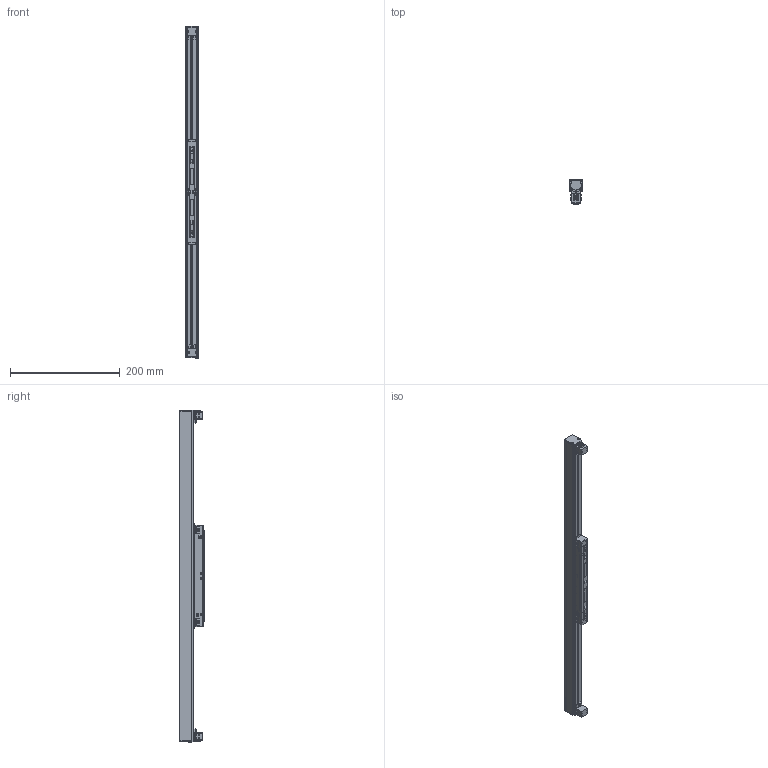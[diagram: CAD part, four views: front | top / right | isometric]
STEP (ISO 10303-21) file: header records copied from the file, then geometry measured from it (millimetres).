
FILE_DESCRIPTION (( 'STEP AP203' ), '1' );
FILE_NAME ('410099.STEP', '2025-04-02T02:25:49', ( '微软用户' ), ( '微软中国' ), 'SwSTEP 2.0', 'SolidWorks 2020', '' );
FILE_SCHEMA (( 'CONFIG_CONTROL_DESIGN' ));
Length unit declared in the file: millimetre
Products named in the file (21): PET毀嫖祧-600; MANIFOLD_SOLID_BREP_1155; 滓嫖黑芛ㄗ湍怢論ㄘ; MANIFOLD_SOLID_BREP_1145; MANIFOLD_SOLID_BREP_1156; 滓嫖醱欶-600; MANIFOLD_SOLID_BREP_1146; 10-07-WJ1; 臏價啣-410055; MANIFOLD_SOLID_BREP_1147; 10-08-G1_1; ｳﾁﾍｷﾊｮﾗﾖﾗﾔｹ･ﾂﾝﾋｿ M2.5X8; MANIFOLD_SOLID_BREP_1148; 10-10-gk-2; 安全扣：GN-CX01-10; MANIFOLD_SOLID_BREP_1149; 410099; 滓嫖腑极-600ㄗ湍怢論ㄘ; 埴芛坋趼蹟佪M3X6; MANIFOLD_SOLID_BREP_1150; 黑芛掖蝶ㄗ湍怢論ㄘ
Assembly tree (28 placements, depth 3):
  410099
    滓嫖腑极-600ㄗ湍怢論ㄘ
    黑芛掖蝶ㄗ湍怢論ㄘ  x2
    滓嫖黑芛ㄗ湍怢論ㄘ  x2
    滓嫖醱欶-600
    臏價啣-410055
    ｳﾁﾍｷﾊｮﾗﾖﾗﾔｹ･ﾂﾝﾋｿ M2.5X8  x4
    安全扣：GN-CX01-10  x2
    埴芛坋趼蹟佪M3X6  x2
    PET毀嫖祧-600  x2
    10-10-gk-2
      MANIFOLD_SOLID_BREP_1145
      MANIFOLD_SOLID_BREP_1146
      MANIFOLD_SOLID_BREP_1147
      MANIFOLD_SOLID_BREP_1148
      MANIFOLD_SOLID_BREP_1149
      MANIFOLD_SOLID_BREP_1150
      MANIFOLD_SOLID_BREP_1155
      MANIFOLD_SOLID_BREP_1156
      10-07-WJ1
      10-08-G1_1
Bounding box: 22 x 44.4 x 604.4 mm (x, y, z)
Volume: 153641 mm3; surface area: 227300.9 mm2
Topology: 31 solids, 31 shells, 2887 faces, 7609 edges, 5002 vertices
Faces by surface type: plane 2185, cylinder 495, bspline 130, cone 77
Entity records: 95906 total; most frequent: CARTESIAN_POINT 30048, ORIENTED_EDGE 13972, DIRECTION 11421, EDGE_CURVE 6986, VECTOR 5039, LINE 5039, VERTEX_POINT 4615, AXIS2_PLACEMENT_3D 3191
